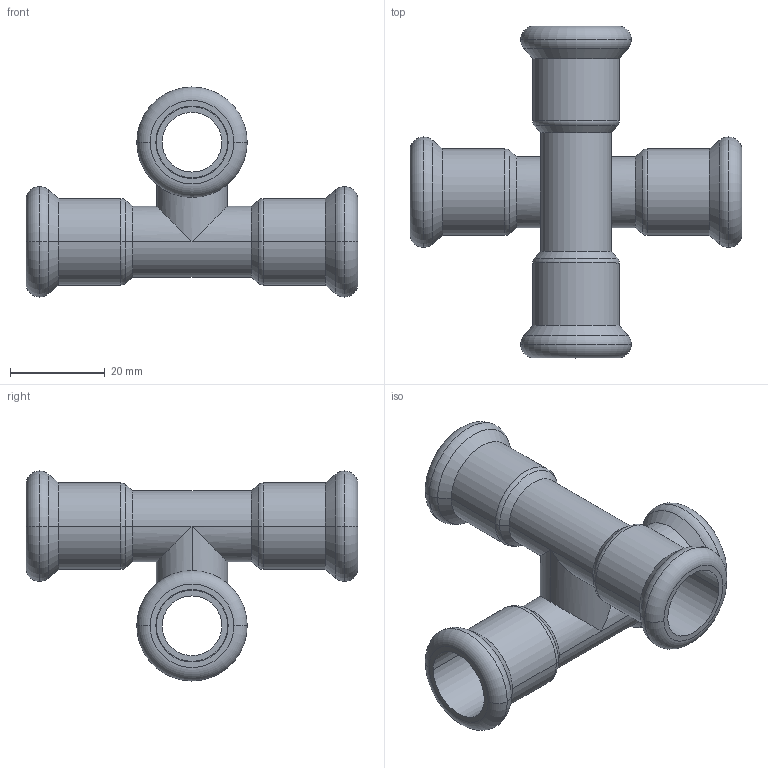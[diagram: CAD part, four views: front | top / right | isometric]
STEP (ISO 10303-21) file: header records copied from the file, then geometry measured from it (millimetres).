
FILE_DESCRIPTION(('CoCreate Modeling STEP Export'),'2;1');
FILE_NAME('C1434 15x15x15x15.stp','2014-11-12T16:27:15',(''),(''),'CoCreate Modeling STEP processor for AP214 (Solid Model)','CoCreate Modeling 17.00A 17-Jun-2010 (C) Parametric Technology GmbH','');
FILE_SCHEMA(('AUTOMOTIVE_DESIGN { 1 0 10303 214 1 1 1 1 }'));
Length unit declared in the file: millimetre
Products named in the file (2): C1434_15x15x15x15
Assembly tree (1 placements, depth 2):
  C1434_15x15x15x15
    C1434_15x15x15x15
Bounding box: 70 x 70 x 44.3 mm (x, y, z)
Volume: 13555.2 mm3; surface area: 16048.9 mm2
Topology: 1 solids, 2 shells, 92 faces, 191 edges, 111 vertices
Faces by surface type: cylinder 40, torus 24, cone 16, plane 12
Entity records: 3023 total; most frequent: CARTESIAN_POINT 1328, ORIENTED_EDGE 382, DIRECTION 302, EDGE_CURVE 191, AXIS2_PLACEMENT_3D 125, VERTEX_POINT 111, EDGE_LOOP 104, FACE_OUTER_BOUND 92
